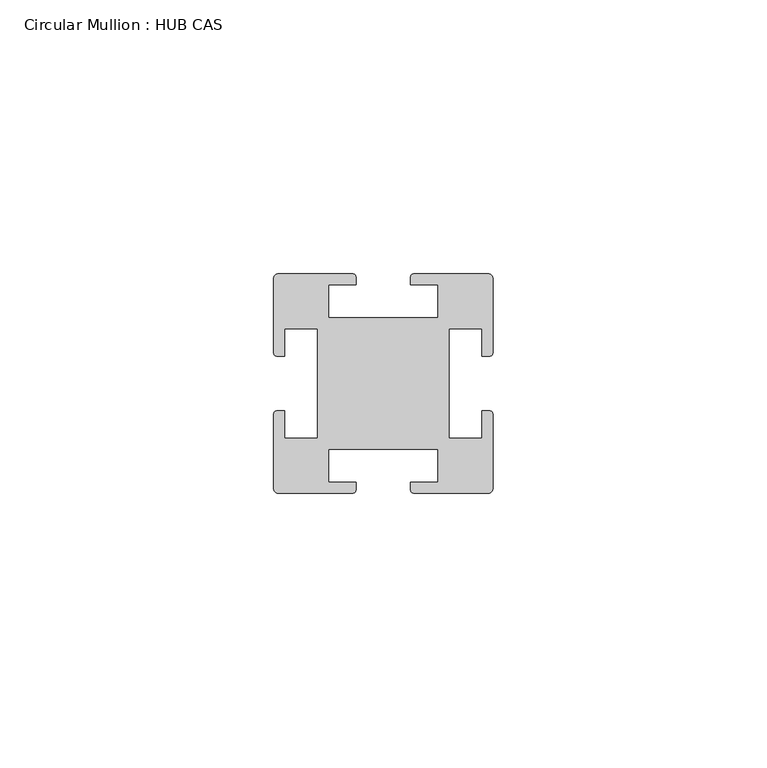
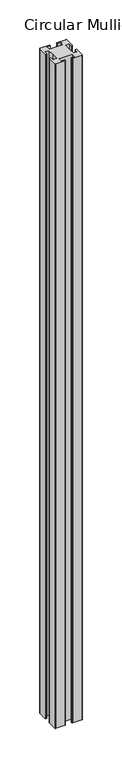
"""IFC4 building model written with IfcOpenShell, lengths in millimetres: member geometry, Circular Mullion : HUB CAS."""

from ifc_helpers import new_model, si_unit, point, frame, frame_2d, origin, place, context, project, spatial, polyline, circle_curve, trimmed, segment, composite_curve, outline, extrude, source, transform, mapped, element, save


def circular_mullion_hub_cas_db5252f6(model_context):
    return source(origin(), model_context, "Body", "SweptSolid", [
        extrude(outline(composite_curve([segment(polyline([(5.601076, 2.0892375), (19.298924, 2.0892375)]), True, "CONTINUOUS"), segment(trimmed(circle_curve(frame_2d((19.298924, 1.3892375)), 0.7), [point((19.298924, 2.0892375))], [point((19.998924, 1.3892375))], False, "CARTESIAN"), True, "CONTINUOUS"), segment(polyline([(19.998924, 1.3892375), (19.998924, -12.3107625)]), True, "CONTINUOUS"), segment(trimmed(circle_curve(frame_2d((19.398924, -12.3107625)), 0.6), [point((19.998924, -12.3107625))], [point((19.398924, -12.9107625))], False, "CARTESIAN"), True, "CONTINUOUS"), segment(polyline([(19.398924, -12.9107625), (17.998924, -12.9107625), (17.998924, -7.9107625), (11.998924, -7.9107625), (11.998924, -17.9107625), (11.998924, -27.9107625), (17.998924, -27.9107625), (17.998924, -22.9107625), (19.398924, -22.9107625)]), True, "CONTINUOUS"), segment(trimmed(circle_curve(frame_2d((19.398924, -23.5107625)), 0.6), [point((19.398924, -22.9107625))], [point((19.998924, -23.5107625))], False, "CARTESIAN"), True, "CONTINUOUS"), segment(polyline([(19.998924, -23.5107625), (19.998924, -37.2107625)]), True, "CONTINUOUS"), segment(trimmed(circle_curve(frame_2d((19.298924, -37.2107625)), 0.7), [point((19.998924, -37.2107625))], [point((19.298924, -37.9107625))], False, "CARTESIAN"), True, "CONTINUOUS"), segment(polyline([(19.298924, -37.9107625), (5.601076, -37.9107625)]), True, "CONTINUOUS"), segment(trimmed(circle_curve(frame_2d((5.601076, -37.3107625)), 0.6), [point((5.601076, -37.9107625))], [point((5.001076, -37.3107625))], False, "CARTESIAN"), True, "CONTINUOUS"), segment(polyline([(5.001076, -37.3107625), (5.001076, -35.910257), (9.998924, -35.910257), (9.998924, -29.9107625), (-9.998924, -29.9107625), (-9.998924, -35.910257), (-5.001076, -35.910257), (-5.001076, -37.3107625)]), True, "CONTINUOUS"), segment(trimmed(circle_curve(frame_2d((-5.601076, -37.3107625)), 0.6), [point((-5.001076, -37.3107625))], [point((-5.601076, -37.9107625))], False, "CARTESIAN"), True, "CONTINUOUS"), segment(polyline([(-5.601076, -37.9107625), (-19.298924, -37.9107625)]), True, "CONTINUOUS"), segment(trimmed(circle_curve(frame_2d((-19.298924, -37.2107625)), 0.7), [point((-19.298924, -37.9107625))], [point((-19.998924, -37.2107625))], False, "CARTESIAN"), True, "CONTINUOUS"), segment(polyline([(-19.998924, -37.2107625), (-19.998924, -23.5107625)]), True, "CONTINUOUS"), segment(trimmed(circle_curve(frame_2d((-19.398924, -23.5107625)), 0.6), [point((-19.998924, -23.5107625))], [point((-19.398924, -22.9107625))], False, "CARTESIAN"), True, "CONTINUOUS"), segment(polyline([(-19.398924, -22.9107625), (-17.998924, -22.9107625), (-17.998924, -27.9107625), (-11.998924, -27.9107625), (-11.998924, -17.9107625), (-11.998924, -7.9107625), (-17.998924, -7.9107625), (-17.998924, -12.9107625), (-19.398924, -12.9107625)]), True, "CONTINUOUS"), segment(trimmed(circle_curve(frame_2d((-19.398924, -12.3107625)), 0.6), [point((-19.398924, -12.9107625))], [point((-19.998924, -12.3107625))], False, "CARTESIAN"), True, "CONTINUOUS"), segment(polyline([(-19.998924, -12.3107625), (-19.998924, 1.3892375)]), True, "CONTINUOUS"), segment(trimmed(circle_curve(frame_2d((-19.298924, 1.3892375)), 0.7), [point((-19.998924, 1.3892375))], [point((-19.298924, 2.0892375))], False, "CARTESIAN"), True, "CONTINUOUS"), segment(polyline([(-19.298924, 2.0892375), (-5.601076, 2.0892375)]), True, "CONTINUOUS"), segment(trimmed(circle_curve(frame_2d((-5.601076, 1.4892375)), 0.6), [point((-5.601076, 2.0892375))], [point((-5.001076, 1.4892375))], False, "CARTESIAN"), True, "CONTINUOUS"), segment(polyline([(-5.001076, 1.4892375), (-5.001076, 0.0887321), (-9.998924, 0.0887321), (-9.998924, -5.9107625), (9.998924, -5.9107625), (9.998924, 0.0887321), (5.001076, 0.0887321), (5.001076, 1.4892375)]), True, "CONTINUOUS"), segment(trimmed(circle_curve(frame_2d((5.601076, 1.4892375)), 0.6), [point((5.001076, 1.4892375))], [point((5.601076, 2.0892375))], False, "CARTESIAN"), True, "CONTINUOUS")], self_intersect=False)), frame((0.0, 0.0, -1030.0010763), z_axis=(0.0, 0.0, 1.0), x_axis=(1.0, 0.0, 0.0)), (0.0, 0.0, 1.0), 1030.0010763),
    ])


if __name__ == "__main__":
    model = new_model("IFC4")
    model_context = context("Model", 3, world=origin())
    ifc_project = project(units=[si_unit("LENGTHUNIT", "METRE", prefix="MILLI")], contexts=[model_context])
    site = spatial("IfcSite", under=ifc_project)
    building = spatial("IfcBuilding", under=site)
    placement = place(None, origin())
    circular_mullion_hub_cas_shape = circular_mullion_hub_cas_db5252f6(model_context)
    element("IfcMember", 1, ObjectType="Circular Mullion : HUB CAS", at=placement, inside=building, context=model_context, shape_type="MappedRepresentation", body=[
        mapped(circular_mullion_hub_cas_shape, transform((0.0, 0.0, 0.0), x_axis=(1.0, 0.0, 0.0), y_axis=(0.0, 1.0, 0.0), z_axis=(0.0, 0.0, 1.0))),
    ])
    save(model, "model.ifc")
